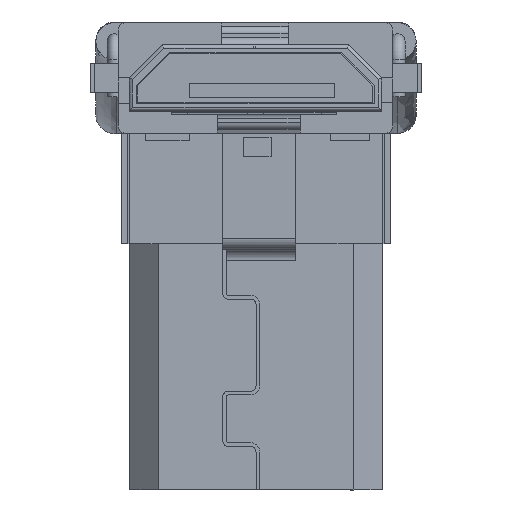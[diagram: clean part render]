
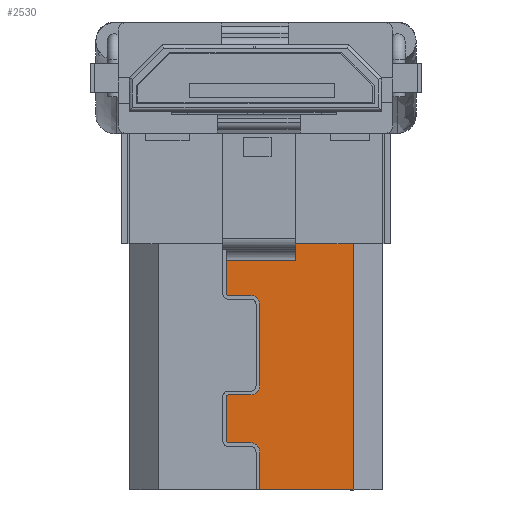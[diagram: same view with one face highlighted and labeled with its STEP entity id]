
A CAD part, front view. The second image highlights one B-rep face of the part: STEP entity #2530.
In plain terms, the highlighted planar face has unit normal (0, -1, 0) as drawn and (0, 0, 1) by its records, which use the part's own axes.
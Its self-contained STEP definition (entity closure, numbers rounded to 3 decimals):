
#2125 = VERTEX_POINT('',#2126);
#2126 = CARTESIAN_POINT('',(-2.65,0.,0.9));
#2150 = VERTEX_POINT('',#2151);
#2151 = CARTESIAN_POINT('',(-1.079,0.,0.9));
#2157 = EDGE_CURVE('',#2125,#2150,#2158,.T.);
#2158 = LINE('',#2159,#2160);
#2159 = CARTESIAN_POINT('',(-3.425,0.,0.9));
#2160 = VECTOR('',#2161,1.);
#2161 = DIRECTION('',(1.,0.,0.));
#2530 = ADVANCED_FACE('',(#2531),#2674,.F.);
#2531 = FACE_BOUND('',#2532,.T.);
#2532 = EDGE_LOOP('',(#2533,#2541,#2549,#2557,#2566,#2574,#2583,#2591,
    #2600,#2608,#2617,#2625,#2634,#2642,#2651,#2659,#2667,#2673));
#2533 = ORIENTED_EDGE('',*,*,#2534,.F.);
#2534 = EDGE_CURVE('',#2535,#2150,#2537,.T.);
#2535 = VERTEX_POINT('',#2536);
#2536 = CARTESIAN_POINT('',(-1.082,0.45,0.9));
#2537 = LINE('',#2538,#2539);
#2538 = CARTESIAN_POINT('',(-1.08,0.15,0.9));
#2539 = VECTOR('',#2540,1.);
#2540 = DIRECTION('',(0.006,-1.,0.));
#2541 = ORIENTED_EDGE('',*,*,#2542,.T.);
#2542 = EDGE_CURVE('',#2535,#2543,#2545,.T.);
#2543 = VERTEX_POINT('',#2544);
#2544 = CARTESIAN_POINT('',(0.8,0.45,0.9));
#2545 = LINE('',#2546,#2547);
#2546 = CARTESIAN_POINT('',(0.8,0.45,0.9));
#2547 = VECTOR('',#2548,1.);
#2548 = DIRECTION('',(1.,0.,0.));
#2549 = ORIENTED_EDGE('',*,*,#2550,.F.);
#2550 = EDGE_CURVE('',#2551,#2543,#2553,.T.);
#2551 = VERTEX_POINT('',#2552);
#2552 = CARTESIAN_POINT('',(0.8,1.35,0.9));
#2553 = LINE('',#2554,#2555);
#2554 = CARTESIAN_POINT('',(0.8,1.35,0.9));
#2555 = VECTOR('',#2556,1.);
#2556 = DIRECTION('',(0.,-1.,0.));
#2557 = ORIENTED_EDGE('',*,*,#2558,.F.);
#2558 = EDGE_CURVE('',#2559,#2551,#2561,.T.);
#2559 = VERTEX_POINT('',#2560);
#2560 = CARTESIAN_POINT('',(0.75,1.4,0.9));
#2561 = CIRCLE('',#2562,0.05);
#2562 = AXIS2_PLACEMENT_3D('',#2563,#2564,#2565);
#2563 = CARTESIAN_POINT('',(0.75,1.35,0.9));
#2564 = DIRECTION('',(0.,0.,-1.));
#2565 = DIRECTION('',(1.,0.,0.));
#2566 = ORIENTED_EDGE('',*,*,#2567,.F.);
#2567 = EDGE_CURVE('',#2568,#2559,#2570,.T.);
#2568 = VERTEX_POINT('',#2569);
#2569 = CARTESIAN_POINT('',(0.15,1.4,0.9));
#2570 = LINE('',#2571,#2572);
#2571 = CARTESIAN_POINT('',(0.15,1.4,0.9));
#2572 = VECTOR('',#2573,1.);
#2573 = DIRECTION('',(1.,0.,0.));
#2574 = ORIENTED_EDGE('',*,*,#2575,.F.);
#2575 = EDGE_CURVE('',#2576,#2568,#2578,.T.);
#2576 = VERTEX_POINT('',#2577);
#2577 = CARTESIAN_POINT('',(-0.1,1.65,0.9));
#2578 = CIRCLE('',#2579,0.25);
#2579 = AXIS2_PLACEMENT_3D('',#2580,#2581,#2582);
#2580 = CARTESIAN_POINT('',(0.15,1.65,0.9));
#2581 = DIRECTION('',(0.,0.,1.));
#2582 = DIRECTION('',(1.,0.,0.));
#2583 = ORIENTED_EDGE('',*,*,#2584,.F.);
#2584 = EDGE_CURVE('',#2585,#2576,#2587,.T.);
#2585 = VERTEX_POINT('',#2586);
#2586 = CARTESIAN_POINT('',(-0.1,3.849,0.9));
#2587 = LINE('',#2588,#2589);
#2588 = CARTESIAN_POINT('',(-0.1,3.849,0.9));
#2589 = VECTOR('',#2590,1.);
#2590 = DIRECTION('',(0.,-1.,0.));
#2591 = ORIENTED_EDGE('',*,*,#2592,.F.);
#2592 = EDGE_CURVE('',#2593,#2585,#2595,.T.);
#2593 = VERTEX_POINT('',#2594);
#2594 = CARTESIAN_POINT('',(0.15,4.099,0.9));
#2595 = CIRCLE('',#2596,0.25);
#2596 = AXIS2_PLACEMENT_3D('',#2597,#2598,#2599);
#2597 = CARTESIAN_POINT('',(0.15,3.849,0.9));
#2598 = DIRECTION('',(0.,0.,1.));
#2599 = DIRECTION('',(1.,0.,0.));
#2600 = ORIENTED_EDGE('',*,*,#2601,.F.);
#2601 = EDGE_CURVE('',#2602,#2593,#2604,.T.);
#2602 = VERTEX_POINT('',#2603);
#2603 = CARTESIAN_POINT('',(0.75,4.099,0.9));
#2604 = LINE('',#2605,#2606);
#2605 = CARTESIAN_POINT('',(0.75,4.099,0.9));
#2606 = VECTOR('',#2607,1.);
#2607 = DIRECTION('',(-1.,0.,0.));
#2608 = ORIENTED_EDGE('',*,*,#2609,.F.);
#2609 = EDGE_CURVE('',#2610,#2602,#2612,.T.);
#2610 = VERTEX_POINT('',#2611);
#2611 = CARTESIAN_POINT('',(0.8,4.149,0.9));
#2612 = CIRCLE('',#2613,0.05);
#2613 = AXIS2_PLACEMENT_3D('',#2614,#2615,#2616);
#2614 = CARTESIAN_POINT('',(0.75,4.149,0.9));
#2615 = DIRECTION('',(0.,0.,-1.));
#2616 = DIRECTION('',(1.,0.,0.));
#2617 = ORIENTED_EDGE('',*,*,#2618,.F.);
#2618 = EDGE_CURVE('',#2619,#2610,#2621,.T.);
#2619 = VERTEX_POINT('',#2620);
#2620 = CARTESIAN_POINT('',(0.8,5.349,0.9));
#2621 = LINE('',#2622,#2623);
#2622 = CARTESIAN_POINT('',(0.8,5.349,0.9));
#2623 = VECTOR('',#2624,1.);
#2624 = DIRECTION('',(0.,-1.,0.));
#2625 = ORIENTED_EDGE('',*,*,#2626,.F.);
#2626 = EDGE_CURVE('',#2627,#2619,#2629,.T.);
#2627 = VERTEX_POINT('',#2628);
#2628 = CARTESIAN_POINT('',(0.75,5.399,0.9));
#2629 = CIRCLE('',#2630,0.05);
#2630 = AXIS2_PLACEMENT_3D('',#2631,#2632,#2633);
#2631 = CARTESIAN_POINT('',(0.75,5.349,0.9));
#2632 = DIRECTION('',(0.,0.,-1.));
#2633 = DIRECTION('',(1.,0.,0.));
#2634 = ORIENTED_EDGE('',*,*,#2635,.F.);
#2635 = EDGE_CURVE('',#2636,#2627,#2638,.T.);
#2636 = VERTEX_POINT('',#2637);
#2637 = CARTESIAN_POINT('',(0.15,5.399,0.9));
#2638 = LINE('',#2639,#2640);
#2639 = CARTESIAN_POINT('',(0.15,5.399,0.9));
#2640 = VECTOR('',#2641,1.);
#2641 = DIRECTION('',(1.,0.,0.));
#2642 = ORIENTED_EDGE('',*,*,#2643,.F.);
#2643 = EDGE_CURVE('',#2644,#2636,#2646,.T.);
#2644 = VERTEX_POINT('',#2645);
#2645 = CARTESIAN_POINT('',(-0.1,5.649,0.9));
#2646 = CIRCLE('',#2647,0.25);
#2647 = AXIS2_PLACEMENT_3D('',#2648,#2649,#2650);
#2648 = CARTESIAN_POINT('',(0.15,5.649,0.9));
#2649 = DIRECTION('',(0.,0.,1.));
#2650 = DIRECTION('',(1.,0.,0.));
#2651 = ORIENTED_EDGE('',*,*,#2652,.F.);
#2652 = EDGE_CURVE('',#2653,#2644,#2655,.T.);
#2653 = VERTEX_POINT('',#2654);
#2654 = CARTESIAN_POINT('',(-0.1,6.68,0.9));
#2655 = LINE('',#2656,#2657);
#2656 = CARTESIAN_POINT('',(-0.1,6.68,0.9));
#2657 = VECTOR('',#2658,1.);
#2658 = DIRECTION('',(0.,-1.,0.));
#2659 = ORIENTED_EDGE('',*,*,#2660,.T.);
#2660 = EDGE_CURVE('',#2653,#2661,#2663,.T.);
#2661 = VERTEX_POINT('',#2662);
#2662 = CARTESIAN_POINT('',(-2.65,6.68,0.9));
#2663 = LINE('',#2664,#2665);
#2664 = CARTESIAN_POINT('',(2.284,6.68,0.9));
#2665 = VECTOR('',#2666,1.);
#2666 = DIRECTION('',(-1.,0.,0.));
#2667 = ORIENTED_EDGE('',*,*,#2668,.F.);
#2668 = EDGE_CURVE('',#2125,#2661,#2669,.T.);
#2669 = LINE('',#2670,#2671);
#2670 = CARTESIAN_POINT('',(-2.65,0.,0.9));
#2671 = VECTOR('',#2672,1.);
#2672 = DIRECTION('',(0.,1.,0.));
#2673 = ORIENTED_EDGE('',*,*,#2157,.T.);
#2674 = PLANE('',#2675);
#2675 = AXIS2_PLACEMENT_3D('',#2676,#2677,#2678);
#2676 = CARTESIAN_POINT('',(0.,0.,0.9));
#2677 = DIRECTION('',(0.,0.,-1.));
#2678 = DIRECTION('',(-1.,0.,0.));
